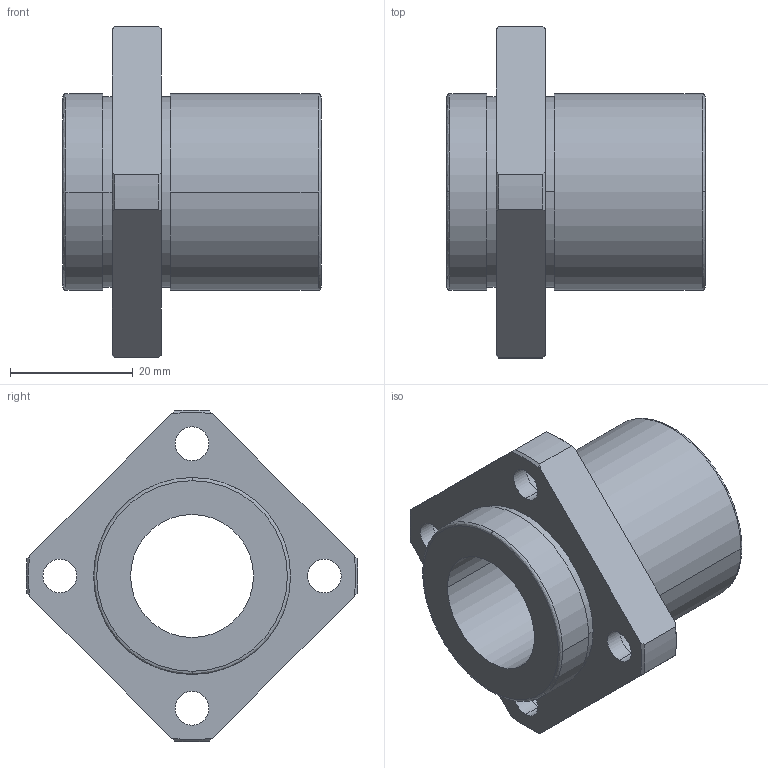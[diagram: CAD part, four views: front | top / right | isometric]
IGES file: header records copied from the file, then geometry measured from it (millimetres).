
Start section: 3D InterOp IGES (Version 21 0 1), Spatial Corp. Copyright (c) 1999-2007.
Global section: file name: NFIS-20VUU.igs; native system: Spatial Corp.; preprocessor: 3D InterOp GENERIC/IGES 3.0; author: Noname; organization: Noname; date: 20220308.112305; units: millimetre
Bounding box: 42 x 53.98 x 53.97 mm (x, y, z)
Surface area: 10885.3 mm2 (no closed solid volume)
Topology: 0 solids, 0 shells, 59 faces, 290 edges, 290 vertices
Faces by surface type: revolution 45, extrusion 14
